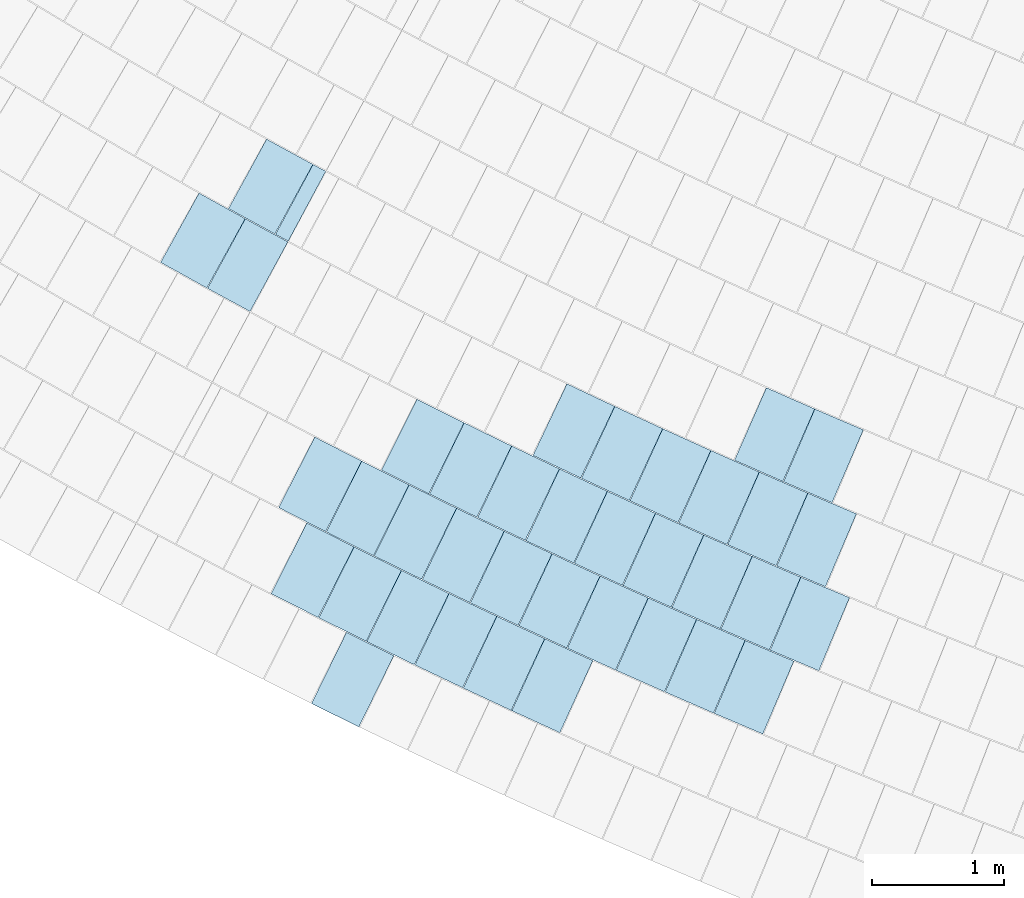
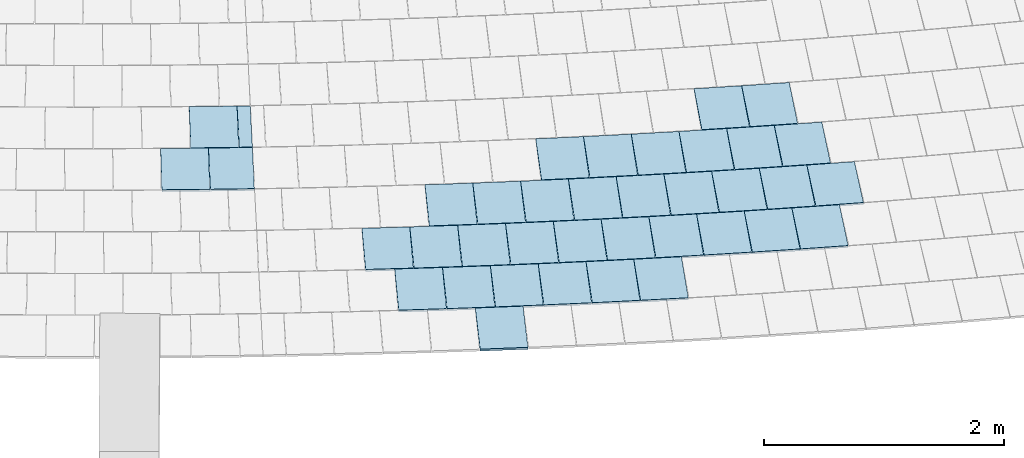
# One storey, part 102 of 438: 38 slabs.
"""IFC2X3 building model written with IfcOpenShell, lengths in millimetres."""

from ifc_helpers import new_model, entity, si_unit, converted_unit, derived_unit, direction, frame, frame_2d, origin, place, context, subcontext, project, spatial, polyline, rectangle, outline, extrude, material, layer, layer_set, layer_usage, type_object, element, save


model = new_model("IFC2X3")

# Units and contexts
model_context = context("Model", 3, precision=0.01, world=origin(), true_north=direction((6.123031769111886e-17, 1.0)))
body_context = subcontext(model_context, "Body", "Model", "MODEL_VIEW")
ifc_project = project(units=[si_unit("LENGTHUNIT", "METRE", prefix="MILLI"), si_unit("AREAUNIT", "SQUARE_METRE"), si_unit("VOLUMEUNIT", "CUBIC_METRE"), converted_unit("PLANEANGLEUNIT", "DEGREE", entity("IfcRatioMeasure", 0.017453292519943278), si_unit("PLANEANGLEUNIT", "RADIAN"), dimensions=[0, 0, 0, 0, 0, 0, 0]), si_unit("MASSUNIT", "GRAM", prefix="KILO"), derived_unit("MASSDENSITYUNIT", [(si_unit("MASSUNIT", "GRAM", prefix="KILO"), 1), (si_unit("LENGTHUNIT", "METRE"), -3)]), derived_unit("MOMENTOFINERTIAUNIT", [(si_unit("LENGTHUNIT", "METRE"), 4)]), si_unit("TIMEUNIT", "SECOND"), si_unit("FREQUENCYUNIT", "HERTZ"), si_unit("THERMODYNAMICTEMPERATUREUNIT", "DEGREE_CELSIUS"), derived_unit("THERMALTRANSMITTANCEUNIT", [(si_unit("MASSUNIT", "GRAM", prefix="KILO"), 1), (si_unit("THERMODYNAMICTEMPERATUREUNIT", "KELVIN"), -1), (si_unit("TIMEUNIT", "SECOND"), -3)]), derived_unit("THERMALCONDUCTANCEUNIT", [(si_unit("MASSUNIT", "GRAM", prefix="KILO"), 1), (si_unit("LENGTHUNIT", "METRE"), 1), (si_unit("THERMODYNAMICTEMPERATUREUNIT", "KELVIN"), -1), (si_unit("TIMEUNIT", "SECOND"), -3)]), derived_unit("VOLUMETRICFLOWRATEUNIT", [(si_unit("LENGTHUNIT", "METRE"), 3), (si_unit("TIMEUNIT", "SECOND"), -1)]), derived_unit("MASSFLOWRATEUNIT", [(si_unit("MASSUNIT", "GRAM", prefix="KILO"), 1), (si_unit("TIMEUNIT", "SECOND"), -1)]), derived_unit("ROTATIONALFREQUENCYUNIT", [(si_unit("TIMEUNIT", "SECOND"), -1)]), si_unit("ELECTRICCURRENTUNIT", "AMPERE"), si_unit("ELECTRICVOLTAGEUNIT", "VOLT"), si_unit("POWERUNIT", "WATT"), converted_unit("FORCEUNIT", "KIP", entity("IfcRatioMeasure", 2.088543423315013e-05), si_unit("FORCEUNIT", "NEWTON"), dimensions=[1, 1, -2, 0, 0, 0, 0]), si_unit("ILLUMINANCEUNIT", "LUX"), si_unit("LUMINOUSFLUXUNIT", "LUMEN"), si_unit("LUMINOUSINTENSITYUNIT", "CANDELA"), derived_unit("USERDEFINED", [(si_unit("MASSUNIT", "GRAM", prefix="KILO"), -1), (si_unit("LENGTHUNIT", "METRE"), -2), (si_unit("TIMEUNIT", "SECOND"), 3), (si_unit("LUMINOUSFLUXUNIT", "LUMEN"), 1)]), derived_unit("USERDEFINED", [(si_unit("MASSUNIT", "GRAM", prefix="KILO"), 1), (si_unit("LENGTHUNIT", "METRE"), 3), (si_unit("TIMEUNIT", "SECOND"), -3), (si_unit("ELECTRICCURRENTUNIT", "AMPERE"), -2)]), derived_unit("USERDEFINED", [(si_unit("LENGTHUNIT", "METRE"), 2), (si_unit("TIMEUNIT", "SECOND"), -2)]), derived_unit("SOUNDPOWERUNIT", [(si_unit("MASSUNIT", "GRAM", prefix="KILO"), 1), (si_unit("LENGTHUNIT", "METRE"), 2), (si_unit("TIMEUNIT", "SECOND"), -3)]), derived_unit("SOUNDPRESSUREUNIT", [(si_unit("MASSUNIT", "GRAM", prefix="KILO"), 1), (si_unit("LENGTHUNIT", "METRE"), -1), (si_unit("TIMEUNIT", "SECOND"), -2)]), derived_unit("LINEARVELOCITYUNIT", [(si_unit("LENGTHUNIT", "METRE"), 1), (si_unit("TIMEUNIT", "SECOND"), -1)]), si_unit("PRESSUREUNIT", "PASCAL"), derived_unit("USERDEFINED", [(si_unit("LENGTHUNIT", "METRE"), -2), (si_unit("MASSUNIT", "GRAM", prefix="KILO"), 1), (si_unit("TIMEUNIT", "SECOND"), -2)]), derived_unit("LINEARFORCEUNIT", [(si_unit("MASSUNIT", "GRAM", prefix="KILO"), 1), (si_unit("LENGTHUNIT", "METRE"), 1), (si_unit("TIMEUNIT", "SECOND"), -2), (si_unit("LENGTHUNIT", "METRE"), -1)]), derived_unit("PLANARFORCEUNIT", [(si_unit("MASSUNIT", "GRAM", prefix="KILO"), 1), (si_unit("LENGTHUNIT", "METRE"), 1), (si_unit("TIMEUNIT", "SECOND"), -2), (si_unit("LENGTHUNIT", "METRE"), -2)]), derived_unit("SPECIFICHEATCAPACITYUNIT", [(si_unit("LENGTHUNIT", "METRE"), 2), (si_unit("TIMEUNIT", "SECOND"), -2), (si_unit("THERMODYNAMICTEMPERATUREUNIT", "KELVIN"), -1)]), derived_unit("VAPORPERMEABILITYUNIT", [(si_unit("TIMEUNIT", "SECOND"), 1), (si_unit("LENGTHUNIT", "METRE"), -1)]), derived_unit("DYNAMICVISCOSITYUNIT", [(si_unit("MASSUNIT", "GRAM", prefix="KILO"), 1), (si_unit("LENGTHUNIT", "METRE"), -1), (si_unit("TIMEUNIT", "SECOND"), -1)]), derived_unit("THERMALEXPANSIONCOEFFICIENTUNIT", [(si_unit("THERMODYNAMICTEMPERATUREUNIT", "KELVIN"), -1)])], contexts=[model_context])

# Site, building, storey
site_placement = place(None, frame((0.0, 0.0, 0.0), z_axis=(0.0, 0.0, 1.0), x_axis=(0.8191520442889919, 0.5735764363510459, 0.0)))
site = spatial("IfcSite", under=ifc_project, at=site_placement, Name="Default", CompositionType="ELEMENT")
building_placement = place(site_placement, origin())
building = spatial("IfcBuilding", under=site, at=building_placement, CompositionType="ELEMENT")
storey_placement = place(building_placement, origin())
storey = spatial("IfcBuildingStorey", under=building, at=storey_placement, Name="PLAN", CompositionType="ELEMENT", Elevation=0.0)

# Slabs
ifc_material = material(Name="Paint-01")
ifc_layer = layer(ifc_material, 20.00000000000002)
ifc_layer_set = layer_set([ifc_layer], Name="Floor:Slab-179:1000")
ifc_layer_usage = layer_usage(ifc_layer_set, "AXIS3", "POSITIVE", 0.0)
slab_type = type_object("IfcSlabType", Name="Floor:Slab-179:1000", PredefinedType="FLOOR", material=ifc_layer_set)
slab_1_placement = place(storey_placement, origin())
element("IfcSlab", 1, at=slab_1_placement, inside=storey, type_object=slab_type, material=ifc_layer_usage, Name="Floor:Slab-179:1000", ObjectType="Floor:Slab-179:1000", PredefinedType="FLOOR", context=body_context, shape_type="SweptSolid", body=[
    extrude(outline(polyline([(-200.00000134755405, -299.9999986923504), (200.0000045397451, -299.9999986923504), (200.0000013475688, 299.9999986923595), (-200.00000453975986, 299.9999986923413), (-200.00000134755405, -299.9999986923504)])), frame((-82098.10883162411, -93784.40332179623, 520.0), z_axis=(0.0, 0.0, -1.0), x_axis=(0.5259936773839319, -0.8504884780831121, 0.0)), (0.0, 0.0, 1.0), 20.000000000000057),
])
slab_2_placement = place(storey_placement, origin())
element("IfcSlab", 2, at=slab_2_placement, inside=storey, type_object=slab_type, material=ifc_layer_usage, Name="Floor:Slab-179:1000", ObjectType="Floor:Slab-179:1000", PredefinedType="FLOOR", context=body_context, shape_type="SweptSolid", body=[
    extrude(outline(polyline([(-200.00000134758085, -299.9999986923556), (200.00000453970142, -299.9999986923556), (200.00000134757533, 299.99999869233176), (-200.00000453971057, 299.9999986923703), (-200.00000134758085, -299.9999986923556)])), frame((-82505.15153320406, -94275.65944761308, 520.0), z_axis=(0.0, 0.0, -1.0), x_axis=(0.52947341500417, -0.8483265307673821, 0.0)), (0.0, 0.0, 1.0), 20.000000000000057),
])
slab_3_placement = place(storey_placement, origin())
element("IfcSlab", 3, at=slab_3_placement, inside=storey, type_object=slab_type, material=ifc_layer_usage, Name="Floor:Slab-179:1000", ObjectType="Floor:Slab-179:1000", PredefinedType="FLOOR", context=body_context, shape_type="SweptSolid", body=[
    extrude(outline(polyline([(-200.00000134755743, -299.99999869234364), (200.0000045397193, -299.99999869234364), (200.00000134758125, 299.9999986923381), (-200.00000453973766, 299.999998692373), (-200.00000134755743, -299.99999869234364)])), frame((-83531.62663884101, -94916.32227430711, 520.0), z_axis=(0.0, 0.0, -1.0), x_axis=(0.5294734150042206, -0.8483265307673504, 0.0)), (0.0, 0.0, 1.0), 20.000000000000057),
])
slab_4_placement = place(storey_placement, origin())
element("IfcSlab", 4, at=slab_4_placement, inside=storey, type_object=slab_type, material=ifc_layer_usage, Name="Floor:Slab-179:1000", ObjectType="Floor:Slab-179:1000", PredefinedType="FLOOR", context=body_context, shape_type="SweptSolid", body=[
    extrude(outline(polyline([(-200.00000134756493, -299.9999986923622), (200.00000453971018, -299.99999869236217), (200.00000134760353, 299.99999869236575), (-200.00000453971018, 299.99999869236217), (-200.00000134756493, -299.9999986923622)])), frame((-83124.5767489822, -94425.09660509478, 520.0), z_axis=(0.0, 0.0, -1.0), x_axis=(0.5260779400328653, -0.8504363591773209, 0.0)), (0.0, 0.0, 1.0), 20.000000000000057),
])
slab_5_placement = place(storey_placement, origin())
element("IfcSlab", 5, at=slab_5_placement, inside=storey, type_object=slab_type, material=ifc_layer_usage, Name="Floor:Slab-179:1000", ObjectType="Floor:Slab-179:1000", PredefinedType="FLOOR", context=body_context, shape_type="SweptSolid", body=[
    extrude(outline(polyline([(-200.0000013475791, -299.9999986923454), (200.00000453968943, -299.99999869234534), (200.00000134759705, 299.9999986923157), (-200.00000453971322, 299.99999869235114), (-200.0000013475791, -299.9999986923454)])), frame((-82308.39343547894, -93441.25594696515, 520.0), z_axis=(0.0, 0.0, -1.0), x_axis=(0.5190077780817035, -0.8547695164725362, 0.0)), (0.0, 0.0, 1.0), 20.000000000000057),
])
slab_6_placement = place(storey_placement, origin())
element("IfcSlab", 6, at=slab_6_placement, inside=storey, type_object=slab_type, material=ifc_layer_usage, Name="Floor:Slab-179:1000", ObjectType="Floor:Slab-179:1000", PredefinedType="FLOOR", context=body_context, shape_type="SweptSolid", body=[
    extrude(outline(polyline([(-200.00000134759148, -299.99999869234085), (200.00000453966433, -299.99999869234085), (200.00000134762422, 299.99999869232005), (-200.00000453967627, 299.9999986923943), (-200.00000134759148, -299.99999869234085)])), frame((-82925.7547635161, -93589.46366330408, 520.0), z_axis=(0.0, 0.0, -1.0), x_axis=(0.5156736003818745, -0.8567851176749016, 0.0)), (0.0, 0.0, 1.0), 19.999999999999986),
])
slab_7_placement = place(storey_placement, origin())
element("IfcSlab", 7, at=slab_7_placement, inside=storey, type_object=slab_type, material=ifc_layer_usage, Name="Floor:Slab-179:1000", ObjectType="Floor:Slab-179:1000", PredefinedType="FLOOR", context=body_context, shape_type="SweptSolid", body=[
    extrude(outline(polyline([(-200.0000013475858, -299.9999986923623), (200.0000045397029, -299.99999869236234), (200.00000134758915, 299.99999869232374), (-200.00000453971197, 299.9999986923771), (-200.0000013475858, -299.9999986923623)])), frame((-82716.84150606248, -93933.41254834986, 520.0), z_axis=(0.0, 0.0, -1.0), x_axis=(0.5225906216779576, -0.8525837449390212, 0.0)), (0.0, 0.0, 1.0), 19.999999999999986),
])
slab_8_placement = place(storey_placement, origin())
element("IfcSlab", 8, at=slab_8_placement, inside=storey, type_object=slab_type, material=ifc_layer_usage, Name="Floor:Slab-179:1000", ObjectType="Floor:Slab-179:1000", PredefinedType="FLOOR", context=body_context, shape_type="SweptSolid", body=[
    extrude(outline(polyline([(-200.00000134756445, -299.9999986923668), (200.00000453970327, -299.9999986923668), (200.00000134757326, 299.9999986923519), (-200.00000453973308, 299.99999869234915), (-200.00000134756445, -299.9999986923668)])), frame((-83131.87762243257, -93243.83531999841, 520.0), z_axis=(0.0, 0.0, -1.0), x_axis=(0.5087228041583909, -0.8609303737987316, 0.0)), (0.0, 0.0, 1.0), 19.999999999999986),
])
slab_9_placement = place(storey_placement, origin())
element("IfcSlab", 9, at=slab_9_placement, inside=storey, type_object=slab_type, material=ifc_layer_usage, Name="Floor:Slab-179:1000", ObjectType="Floor:Slab-179:1000", PredefinedType="FLOOR", context=body_context, shape_type="SweptSolid", body=[
    extrude(outline(polyline([(-200.00000134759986, -299.9999986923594), (200.0000045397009, -299.9999986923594), (200.00000134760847, 299.9999986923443), (-200.0000045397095, 299.9999986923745), (-200.00000134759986, -299.9999986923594)])), frame((-83535.69832681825, -92547.6309172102, 520.0), z_axis=(0.0, 0.0, -1.0), x_axis=(0.49472171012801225, -0.8690514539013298, 0.0)), (0.0, 0.0, 1.0), 20.000000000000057),
])
slab_10_placement = place(storey_placement, origin())
element("IfcSlab", 10, at=slab_10_placement, inside=storey, type_object=slab_type, material=ifc_layer_usage, Name="Floor:Slab-179:1000", ObjectType="Floor:Slab-179:1000", PredefinedType="FLOOR", context=body_context, shape_type="SweptSolid", body=[
    extrude(outline(polyline([(-200.00000134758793, -299.99999869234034), (200.00000453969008, -299.99999869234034), (200.00000134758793, 299.99999869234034), (-200.00000453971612, 299.99999869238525), (-200.00000134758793, -299.99999869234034)])), frame((-83335.19658244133, -92896.5501559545, 520.0), z_axis=(0.0, 0.0, -1.0), x_axis=(0.5017386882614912, -0.8650192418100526, 0.0)), (0.0, 0.0, 1.0), 19.99999999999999),
])
slab_11_placement = place(storey_placement, origin())
element("IfcSlab", 11, at=slab_11_placement, inside=storey, type_object=slab_type, material=ifc_layer_usage, Name="Floor:Slab-179:1000", ObjectType="Floor:Slab-179:1000", PredefinedType="FLOOR", context=body_context, shape_type="SweptSolid", body=[
    extrude(outline(polyline([(-200.00000134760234, -299.9999986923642), (200.0000045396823, -299.99999869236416), (200.00000134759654, 299.9999986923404), (-200.00000453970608, 299.99999869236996), (-200.00000134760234, -299.9999986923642)])), frame((-83334.89835844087, -94082.0414499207, 520.0), z_axis=(0.0, 0.0, -1.0), x_axis=(0.5192618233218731, -0.8546152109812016, 0.0)), (0.0, 0.0, 1.0), 20.000000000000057),
])
slab_12_placement = place(storey_placement, origin())
element("IfcSlab", 12, at=slab_12_placement, inside=storey, type_object=slab_type, material=ifc_layer_usage, Name="Floor:Slab-179:1000", ObjectType="Floor:Slab-179:1000", PredefinedType="FLOOR", context=body_context, shape_type="SweptSolid", body=[
    extrude(outline(polyline([(-200.00000134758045, -299.9999986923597), (200.00000453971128, -299.9999986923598), (200.00000134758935, 299.9999986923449), (-200.00000453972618, 299.9999986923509), (-200.00000134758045, -299.9999986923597)])), frame((-83542.47049401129, -93737.31572208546, 520.0), z_axis=(0.0, 0.0, -1.0), x_axis=(0.5124125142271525, -0.8587394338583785, 0.0)), (0.0, 0.0, 1.0), 20.000000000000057),
])
slab_13_placement = place(storey_placement, origin())
element("IfcSlab", 13, at=slab_13_placement, inside=storey, type_object=slab_type, material=ifc_layer_usage, Name="Floor:Slab-179:1000", ObjectType="Floor:Slab-179:1000", PredefinedType="FLOOR", context=body_context, shape_type="SweptSolid", body=[
    extrude(outline(polyline([(-200.00000134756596, -299.9999986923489), (200.00000453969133, -299.99999869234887), (200.00000134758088, 299.9999986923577), (-200.00000453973, 299.9999986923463), (-200.00000134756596, -299.9999986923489)])), frame((-83747.27988721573, -93390.94145723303, 520.0), z_axis=(0.0, 0.0, -1.0), x_axis=(0.5055304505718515, -0.8628087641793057, 0.0)), (0.0, 0.0, 1.0), 20.000000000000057),
])
slab_14_placement = place(storey_placement, origin())
element("IfcSlab", 14, at=slab_14_placement, inside=storey, type_object=slab_type, material=ifc_layer_usage, Name="Floor:Slab-179:1000", ObjectType="Floor:Slab-179:1000", PredefinedType="FLOOR", context=body_context, shape_type="SweptSolid", body=[
    extrude(outline(polyline([(-200.00000134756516, -299.9999986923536), (200.00000453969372, -299.9999986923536), (200.00000134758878, 299.999998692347), (-200.00000453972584, 299.99999869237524), (-200.00000134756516, -299.9999986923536)])), frame((-84148.5582564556, -92693.3359845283, 520.0), z_axis=(0.0, 0.0, -1.0), x_axis=(0.49166982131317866, -0.8707817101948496, 0.0)), (0.0, 0.0, 1.0), 20.000000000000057),
])
slab_15_placement = place(storey_placement, origin())
element("IfcSlab", 15, at=slab_15_placement, inside=storey, type_object=slab_type, material=ifc_layer_usage, Name="Floor:Slab-179:1000", ObjectType="Floor:Slab-179:1000", PredefinedType="FLOOR", context=body_context, shape_type="SweptSolid", body=[
    extrude(rectangle(XDim=399.9994956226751, YDim=599.999231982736, at=frame_2d((7.474909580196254e-12, 4.348521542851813e-12), x_axis=(1.0, 0.0))), frame((-83949.35051052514, -93043.51551329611, 520.0), z_axis=(0.0, 0.0, -1.0), x_axis=(0.500000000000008, -0.8660254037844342, 0.0)), (0.0, 0.0, 1.0), 19.999999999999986),
])
slab_16_placement = place(storey_placement, origin())
element("IfcSlab", 16, at=slab_16_placement, inside=storey, type_object=slab_type, material=ifc_layer_usage, Name="Floor:Slab-179:1000", ObjectType="Floor:Slab-179:1000", PredefinedType="FLOOR", context=body_context, shape_type="SweptSolid", body=[
    extrude(outline(polyline([(-200.00000134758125, -299.99999869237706), (200.0000045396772, -299.9999986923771), (200.0000013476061, 299.9999986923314), (-200.00000453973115, 299.9999986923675), (-200.00000134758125, -299.99999869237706)])), frame((-84538.63086533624, -91989.40339899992, 520.0), z_axis=(0.0, 0.0, -1.0), x_axis=(0.47768347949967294, -0.8785320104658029, 0.0)), (0.0, 0.0, 1.0), 20.000000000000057),
])
slab_17_placement = place(storey_placement, origin())
element("IfcSlab", 17, at=slab_17_placement, inside=storey, type_object=slab_type, material=ifc_layer_usage, Name="Floor:Slab-179:1000", ObjectType="Floor:Slab-179:1000", PredefinedType="FLOOR", context=body_context, shape_type="SweptSolid", body=[
    extrude(outline(polyline([(-200.00000134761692, -299.99999869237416), (200.0000045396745, -299.99999869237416), (200.00000134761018, 299.9999986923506), (-200.0000045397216, 299.9999986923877), (-200.00000134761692, -299.99999869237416)])), frame((-84345.00158187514, -92342.1493691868, 520.0), z_axis=(0.0, 0.0, -1.0), x_axis=(0.4846921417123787, -0.8746848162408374, 0.0)), (0.0, 0.0, 1.0), 20.000000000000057),
])
slab_18_placement = place(storey_placement, origin())
element("IfcSlab", 18, at=slab_18_placement, inside=storey, type_object=slab_type, material=ifc_layer_usage, Name="Floor:Slab-179:1000", ObjectType="Floor:Slab-179:1000", PredefinedType="FLOOR", context=body_context, shape_type="SweptSolid", body=[
    extrude(outline(polyline([(-200.0000045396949, -299.99999869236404), (200.00000134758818, -299.99999869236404), (200.0000045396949, 299.99999869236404), (-200.00000134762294, 299.9999986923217), (-200.0000045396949, -299.99999869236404)])), frame((-82911.51910986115, -94766.45925875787, 520.0), z_axis=(0.0, 0.0, -1.0), x_axis=(0.5328604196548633, -0.8462031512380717, 0.0)), (0.0, 0.0, 1.0), 19.99999999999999),
])
slab_19_placement = place(storey_placement, origin())
element("IfcSlab", 19, at=slab_19_placement, inside=storey, type_object=slab_type, material=ifc_layer_usage, Name="Floor:Slab-179:1000", ObjectType="Floor:Slab-179:1000", PredefinedType="FLOOR", context=body_context, shape_type="SweptSolid", body=[
    extrude(outline(polyline([(-200.00000134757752, -299.9999986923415), (200.000004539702, -299.9999986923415), (200.00000134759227, 299.9999986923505), (-200.0000045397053, 299.99999869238), (-200.00000134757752, -299.9999986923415)])), frame((-83743.31926209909, -94574.14505352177, 520.0), z_axis=(0.0, 0.0, -1.0), x_axis=(0.5227554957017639, -0.8524826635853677, 0.0)), (0.0, 0.0, 1.0), 19.999999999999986),
])
slab_20_placement = place(storey_placement, origin())
element("IfcSlab", 20, at=slab_20_placement, inside=storey, type_object=slab_type, material=ifc_layer_usage, Name="Floor:Slab-179:1000", ObjectType="Floor:Slab-179:1000", PredefinedType="FLOOR", context=body_context, shape_type="SweptSolid", body=[
    extrude(outline(polyline([(-200.0000013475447, -299.9999986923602), (200.000004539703, -299.9999986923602), (200.0000013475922, 299.99999869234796), (-200.00000453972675, 299.99999869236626), (-200.0000013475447, -299.9999986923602)])), frame((-84158.56251237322, -93884.82726857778, 520.0), z_axis=(0.0, 0.0, -1.0), x_axis=(0.509222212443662, -0.8606350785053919, 0.0)), (0.0, 0.0, 1.0), 20.000000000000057),
])
slab_21_placement = place(storey_placement, origin())
element("IfcSlab", 21, at=slab_21_placement, inside=storey, type_object=slab_type, material=ifc_layer_usage, Name="Floor:Slab-179:1000", ObjectType="Floor:Slab-179:1000", PredefinedType="FLOOR", context=body_context, shape_type="SweptSolid", body=[
    extrude(outline(polyline([(-200.00000134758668, -299.99999869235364), (200.00000453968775, -299.9999986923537), (200.0000013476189, 299.99999869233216), (-200.0000045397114, 299.9999986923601), (-200.00000134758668, -299.99999869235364)])), frame((-84562.8636756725, -93189.0352487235, 520.0), z_axis=(0.0, 0.0, -1.0), x_axis=(0.49556182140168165, -0.8685726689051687, 0.0)), (0.0, 0.0, 1.0), 20.000000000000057),
])
slab_22_placement = place(storey_placement, origin())
element("IfcSlab", 22, at=slab_22_placement, inside=storey, type_object=slab_type, material=ifc_layer_usage, Name="Floor:Slab-179:1000", ObjectType="Floor:Slab-179:1000", PredefinedType="FLOOR", context=body_context, shape_type="SweptSolid", body=[
    extrude(outline(polyline([(-200.00000134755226, -299.9999986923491), (200.0000045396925, -299.99999869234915), (200.00000134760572, 299.9999986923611), (-200.00000453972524, 299.9999986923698), (-200.00000134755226, -299.9999986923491)])), frame((-83952.30223372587, -94230.3062326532, 520.0), z_axis=(0.0, 0.0, -1.0), x_axis=(0.5160049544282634, -0.856585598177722, 0.0)), (0.0, 0.0, 1.0), 20.000000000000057),
])
slab_23_placement = place(storey_placement, origin())
element("IfcSlab", 23, at=slab_23_placement, inside=storey, type_object=slab_type, material=ifc_layer_usage, Name="Floor:Slab-179:1000", ObjectType="Floor:Slab-179:1000", PredefinedType="FLOOR", context=body_context, shape_type="SweptSolid", body=[
    extrude(outline(polyline([(-200.000001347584, -299.9999986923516), (200.00000453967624, -299.99999869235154), (200.00000134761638, 299.9999986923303), (-200.00000453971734, 299.99999869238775), (-200.000001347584, -299.9999986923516)])), frame((-84362.08722659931, -93537.72972052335, 520.0), z_axis=(0.0, 0.0, -1.0), x_axis=(0.5024076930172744, -0.8646308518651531, 0.0)), (0.0, 0.0, 1.0), 19.999999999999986),
])
slab_24_placement = place(storey_placement, origin())
element("IfcSlab", 24, at=slab_24_placement, inside=storey, type_object=slab_type, material=ifc_layer_usage, Name="Floor:Slab-179:1000", ObjectType="Floor:Slab-179:1000", PredefinedType="FLOOR", context=body_context, shape_type="SweptSolid", body=[
    extrude(outline(polyline([(-200.00000134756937, -299.99999869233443), (200.00000453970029, -299.99999869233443), (200.00000134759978, 299.99999869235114), (-200.00000453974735, 299.99999869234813), (-200.00000134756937, -299.99999869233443)])), frame((-84956.12183372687, -92486.9426717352, 520.0), z_axis=(0.0, 0.0, -1.0), x_axis=(0.4817777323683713, -0.876293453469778, 0.0)), (0.0, 0.0, 1.0), 20.000000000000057),
])
slab_25_placement = place(storey_placement, origin())
element("IfcSlab", 25, at=slab_25_placement, inside=storey, type_object=slab_type, material=ifc_layer_usage, Name="Floor:Slab-179:1000", ObjectType="Floor:Slab-179:1000", PredefinedType="FLOOR", context=body_context, shape_type="SweptSolid", body=[
    extrude(outline(polyline([(-200.00000134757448, -299.99999869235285), (200.00000453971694, -299.99999869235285), (200.00000134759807, 299.99999869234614), (-200.00000453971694, 299.99999869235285), (-200.00000134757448, -299.99999869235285)])), frame((-84760.87933036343, -92838.7656130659, 520.0), z_axis=(0.0, 0.0, -1.0), x_axis=(0.48868502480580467, -0.8724602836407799, 0.0)), (0.0, 0.0, 1.0), 20.000000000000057),
])
slab_26_placement = place(storey_placement, origin())
element("IfcSlab", 26, at=slab_26_placement, inside=storey, type_object=slab_type, material=ifc_layer_usage, Name="Floor:Slab-179:1000", ObjectType="Floor:Slab-179:1000", PredefinedType="FLOOR", context=body_context, shape_type="SweptSolid", body=[
    extrude(outline(polyline([(-200.00000134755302, -299.99999869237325), (200.000004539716, -299.99999869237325), (200.00000134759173, 299.99999869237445), (-200.00000453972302, 299.99999869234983), (-200.00000134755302, -299.99999869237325)])), frame((-85148.57900187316, -92133.5883798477, 520.0), z_axis=(0.0, 0.0, -1.0), x_axis=(0.4748403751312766, -0.8800719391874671, 0.0)), (0.0, 0.0, 1.0), 20.000000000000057),
])
slab_27_placement = place(storey_placement, origin())
element("IfcSlab", 27, at=slab_27_placement, inside=storey, type_object=slab_type, material=ifc_layer_usage, Name="Floor:Slab-179:1000", ObjectType="Floor:Slab-179:1000", PredefinedType="FLOOR", context=body_context, shape_type="SweptSolid", body=[
    extrude(outline(polyline([(-200.00000134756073, -299.9999986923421), (200.0000045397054, -299.99999869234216), (200.00000134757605, 299.99999869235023), (-200.00000453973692, 299.99999869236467), (-200.00000134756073, -299.9999986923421)])), frame((-85338.23882472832, -91778.72478808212, 520.0), z_axis=(0.0, 0.0, -1.0), x_axis=(0.4678733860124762, -0.883795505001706, 0.0)), (0.0, 0.0, 1.0), 20.000000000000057),
])
slab_28_placement = place(storey_placement, origin())
element("IfcSlab", 28, at=slab_28_placement, inside=storey, type_object=slab_type, material=ifc_layer_usage, Name="Floor:Slab-179:1000", ObjectType="Floor:Slab-179:1000", PredefinedType="FLOOR", context=body_context, shape_type="SweptSolid", body=[
    extrude(outline(polyline([(-200.00000134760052, -299.99999869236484), (200.00000453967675, -299.99999869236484), (200.00000134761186, 299.99999869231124), (-200.00000453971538, 299.9999986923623), (-200.00000134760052, -299.99999869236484)])), frame((-84774.05173761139, -94032.01262514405, 520.0), z_axis=(0.0, 0.0, -1.0), x_axis=(0.5061004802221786, -0.862474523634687, 0.0)), (0.0, 0.0, 1.0), 20.000000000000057),
])
slab_29_placement = place(storey_placement, origin())
element("IfcSlab", 29, at=slab_29_placement, inside=storey, type_object=slab_type, material=ifc_layer_usage, Name="Floor:Slab-179:1000", ObjectType="Floor:Slab-179:1000", PredefinedType="FLOOR", context=body_context, shape_type="SweptSolid", body=[
    extrude(rectangle(XDim=399.99989407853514, YDim=599.9998296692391, at=frame_2d((7.474909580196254e-12, 4.320099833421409e-12), x_axis=(1.0, 0.0))), frame((-84976.33699743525, -93684.48249730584, 520.0), z_axis=(0.0, 0.0, -1.0), x_axis=(0.4999999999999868, -0.8660254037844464, 0.0)), (0.0, 0.0, 1.0), 20.000000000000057),
])
slab_30_placement = place(storey_placement, origin())
element("IfcSlab", 30, at=slab_30_placement, inside=storey, type_object=slab_type, material=ifc_layer_usage, Name="Floor:Slab-179:1000", ObjectType="Floor:Slab-179:1000", PredefinedType="FLOOR", context=body_context, shape_type="SweptSolid", body=[
    extrude(outline(polyline([(-200.00000134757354, -299.9999986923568), (200.0000045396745, -299.9999986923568), (200.00000134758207, 299.99999869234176), (-200.00000453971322, 299.99999869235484), (-200.00000134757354, -299.9999986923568)])), frame((-85175.86637690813, -93334.84595288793, 520.0), z_axis=(0.0, 0.0, -1.0), x_axis=(0.4925737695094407, -0.8702706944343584, 0.0)), (0.0, 0.0, 1.0), 19.999999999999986),
])
slab_31_placement = place(storey_placement, origin())
element("IfcSlab", 31, at=slab_31_placement, inside=storey, type_object=slab_type, material=ifc_layer_usage, Name="Floor:Slab-179:1000", ObjectType="Floor:Slab-179:1000", PredefinedType="FLOOR", context=body_context, shape_type="SweptSolid", body=[
    extrude(outline(polyline([(-200.00000134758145, -299.9999986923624), (200.00000453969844, -299.99999869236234), (200.00000134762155, 299.99999869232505), (-200.0000045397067, 299.9999986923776), (-200.00000134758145, -299.9999986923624)])), frame((-85566.74781635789, -92631.49108260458, 520.0), z_axis=(0.0, 0.0, -1.0), x_axis=(0.4789269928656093, -0.8778547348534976, 0.0)), (0.0, 0.0, 1.0), 20.000000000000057),
])
slab_32_placement = place(storey_placement, origin())
element("IfcSlab", 32, at=slab_32_placement, inside=storey, type_object=slab_type, material=ifc_layer_usage, Name="Floor:Slab-179:1000", ObjectType="Floor:Slab-179:1000", PredefinedType="FLOOR", context=body_context, shape_type="SweptSolid", body=[
    extrude(outline(polyline([(-200.00000134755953, -299.9999986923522), (200.0000045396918, -299.99999869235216), (200.00000134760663, 299.99999869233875), (-200.0000045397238, 299.99999869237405), (-200.00000134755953, -299.9999986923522)])), frame((-85372.67976423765, -92983.93136209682, 520.0), z_axis=(0.0, 0.0, -1.0), x_axis=(0.4857651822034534, -0.874089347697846, 0.0)), (0.0, 0.0, 1.0), 20.000000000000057),
])
slab_33_placement = place(storey_placement, origin())
element("IfcSlab", 33, at=slab_33_placement, inside=storey, type_object=slab_type, material=ifc_layer_usage, Name="Floor:Slab-179:1000", ObjectType="Floor:Slab-179:1000", PredefinedType="FLOOR", context=body_context, shape_type="SweptSolid", body=[
    extrude(outline(polyline([(-200.00000134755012, -299.99999869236), (200.000004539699, -299.99999869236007), (200.00000134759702, 299.99999869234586), (-200.00000453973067, 299.9999986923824), (-200.00000134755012, -299.99999869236)])), frame((-85758.05870696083, -92277.54659176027, 520.0), z_axis=(0.0, 0.0, -1.0), x_axis=(0.4720596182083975, -0.8815666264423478, 0.0)), (0.0, 0.0, 1.0), 20.000000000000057),
])
slab_34_placement = place(storey_placement, origin())
element("IfcSlab", 34, at=slab_34_placement, inside=storey, type_object=slab_type, material=ifc_layer_usage, Name="Floor:Slab-179:1000", ObjectType="Floor:Slab-179:1000", PredefinedType="FLOOR", context=body_context, shape_type="SweptSolid", body=[
    extrude(outline(polyline([(-200.0000013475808, -299.99999869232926), (200.0000045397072, -299.9999986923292), (200.00000134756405, 299.9999986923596), (-200.0000045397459, 299.9999986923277), (-200.0000013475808, -299.99999869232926)])), frame((-85983.97696951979, -93128.84417085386, 520.0), z_axis=(0.0, 0.0, -1.0), x_axis=(0.482908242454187, -0.8756709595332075, 0.0)), (0.0, 0.0, 1.0), 20.000000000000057),
])
slab_35_placement = place(storey_placement, origin())
element("IfcSlab", 35, at=slab_35_placement, inside=storey, type_object=slab_type, material=ifc_layer_usage, Name="Floor:Slab-179:1000", ObjectType="Floor:Slab-179:1000", PredefinedType="FLOOR", context=body_context, shape_type="SweptSolid", body=[
    extrude(outline(polyline([(-200.0000045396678, -299.9999986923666), (200.0000013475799, -299.9999986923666), (200.00000453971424, 299.9999986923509), (-200.00000134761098, 299.99999869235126), (-200.0000045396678, -299.9999986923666)])), frame((-84353.25783902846, -89719.88911011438, 520.0), z_axis=(0.0, 0.0, -1.0), x_axis=(0.44324704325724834, -0.8963994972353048, 0.0)), (0.0, 0.0, 1.0), 20.000000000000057),
])
slab_36_placement = place(storey_placement, origin())
element("IfcSlab", 36, at=slab_36_placement, inside=storey, type_object=slab_type, material=ifc_layer_usage, Name="Floor:Slab-179:1000", ObjectType="Floor:Slab-179:1000", PredefinedType="FLOOR", context=body_context, shape_type="SweptSolid", body=[
    extrude(outline(polyline([(-54.94450092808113, -299.99999869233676), (54.94449773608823, -299.99999869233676), (54.94450092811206, 299.99999869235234), (-54.944497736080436, 299.9999986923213), (-54.94450092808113, -299.99999869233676)])), frame((-84238.75320988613, -89950.41889975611, 520.0), z_axis=(0.0, 0.0, -1.0), x_axis=(0.45057656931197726, -0.8927377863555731, 0.0)), (0.0, 0.0, 1.0), 20.000000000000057),
])
slab_37_placement = place(storey_placement, origin())
element("IfcSlab", 37, at=slab_37_placement, inside=storey, type_object=slab_type, material=ifc_layer_usage, Name="Floor:Slab-179:1000", ObjectType="Floor:Slab-179:1000", PredefinedType="FLOOR", context=body_context, shape_type="SweptSolid", body=[
    extrude(outline(polyline([(-200.0000045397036, -299.99999869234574), (200.0000013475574, -299.99999869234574), (200.00000453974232, 299.9999986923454), (-200.00000134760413, 299.9999986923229), (-200.0000045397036, -299.99999869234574)])), frame((-85007.39639626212, -89760.46233870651, 520.0), z_axis=(0.0, 0.0, -1.0), x_axis=(0.4386700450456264, -0.8986482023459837, 0.0)), (0.0, 0.0, 1.0), 20.000000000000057),
])
slab_38_placement = place(storey_placement, origin())
element("IfcSlab", 38, at=slab_38_placement, inside=storey, type_object=slab_type, material=ifc_layer_usage, Name="Floor:Slab-179:1000", ObjectType="Floor:Slab-179:1000", PredefinedType="FLOOR", context=body_context, shape_type="SweptSolid", body=[
    extrude(outline(polyline([(-183.44195594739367, -299.99999869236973), (183.44195275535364, -299.9999986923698), (183.44195594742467, 299.9999986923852), (-183.44195275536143, 299.99999869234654), (-183.44195594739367, -299.99999869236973)])), frame((-84836.78654228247, -90106.56262364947, 520.0), z_axis=(0.0, 0.0, -1.0), x_axis=(0.4459283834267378, -0.8950686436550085, 0.0)), (0.0, 0.0, 1.0), 20.000000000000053),
])

save(model, "model.ifc")
